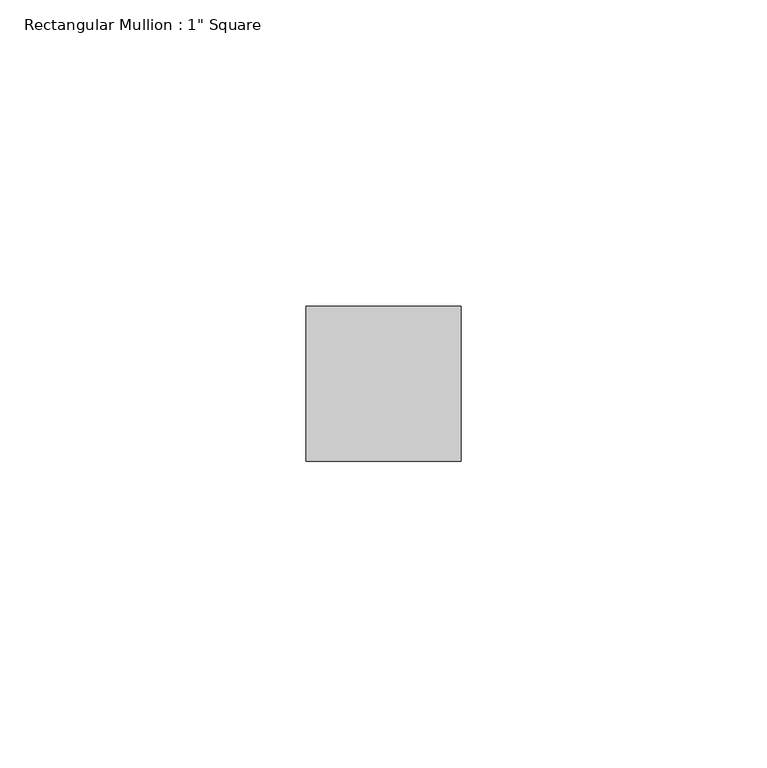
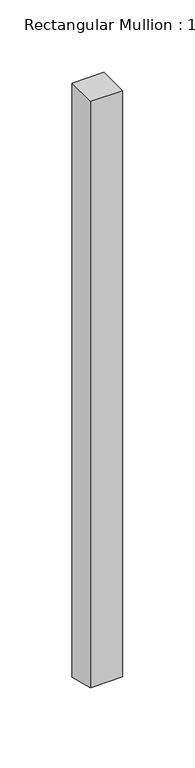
"""IFC4 building model written with IfcOpenShell, lengths in millimetres: member geometry."""

from ifc_helpers import new_model, si_unit, origin, place, context, project, spatial, faceted_brep, source, transform, mapped, element, save


def member_a14fa40f(model_context):
    return source(origin(), model_context, "Body", "Brep", [
        faceted_brep([(0.0, 12.7, 0.0), (-25.4, 12.7, 0.0), (-25.4, -12.7, 0.0), (0.0, -12.7, 0.0), (0.0, 12.7, -500.0424167), (-25.4, 12.7, -500.4696645), (-25.4, -12.7, -493.80076), (0.0, -12.7, -493.3735122)], [[[0, 1, 2, 3]], [[1, 0, 4, 5]], [[2, 1, 5, 6]], [[3, 2, 6, 7]], [[0, 3, 7, 4]], [[4, 7, 6, 5]]]),
    ])


if __name__ == "__main__":
    model = new_model("IFC4")
    model_context = context("Model", 3, world=origin())
    ifc_project = project(units=[si_unit("LENGTHUNIT", "METRE", prefix="MILLI")], contexts=[model_context])
    site = spatial("IfcSite", under=ifc_project)
    building = spatial("IfcBuilding", under=site)
    placement = place(None, origin())
    member_shape = member_a14fa40f(model_context)
    element("IfcMember", 1, ObjectType="Rectangular Mullion : 1\" Square", at=placement, inside=building, context=model_context, shape_type="MappedRepresentation", body=[
        mapped(member_shape, transform((0.0, 0.0, 0.0), x_axis=(1.0, 0.0, 0.0), y_axis=(0.0, 1.0, 0.0), z_axis=(0.0, 0.0, 1.0))),
    ])
    save(model, "model.ifc")
